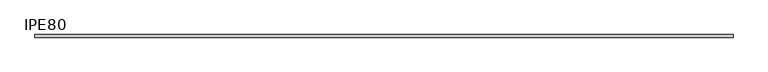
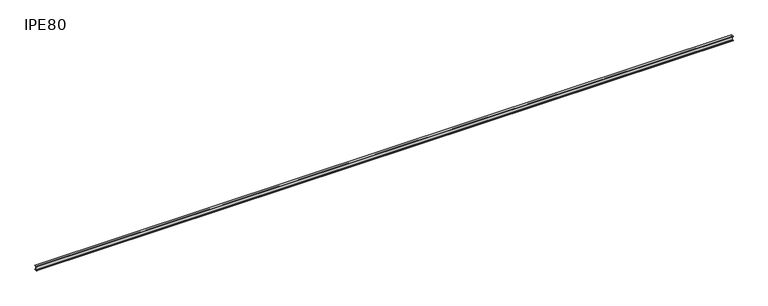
"""IFC4 building model written with IfcOpenShell, lengths in millimetres: beam geometry, IPE-Poutrelles : IPE80."""

from ifc_helpers import new_model, si_unit, point, frame, frame_2d, origin, place, context, project, spatial, polyline, circle_curve, trimmed, segment, composite_curve, outline, extrude, source, transform, mapped, element, save


def ipe80_2506bd97(model_context):
    return source(origin(), model_context, "Body", "SweptSolid", [
        extrude(outline(composite_curve([segment(polyline([(23.0, -34.8), (23.0, -40.0), (-23.0, -40.0), (-23.0, -34.8), (-6.9, -34.8)]), True, "CONTINUOUS"), segment(trimmed(circle_curve(frame_2d((-6.9, -29.8)), 5.0), [point((-6.9, -34.8))], [point((-1.9, -29.8))], True, "CARTESIAN"), True, "CONTINUOUS"), segment(polyline([(-1.9, -29.8), (-1.9, 29.8)]), True, "CONTINUOUS"), segment(trimmed(circle_curve(frame_2d((-6.9, 29.8)), 5.0), [point((-1.9, 29.8))], [point((-6.9, 34.8))], True, "CARTESIAN"), True, "CONTINUOUS"), segment(polyline([(-6.9, 34.8), (-23.0, 34.8), (-23.0, 40.0), (23.0, 40.0), (23.0, 34.8), (6.9, 34.8)]), True, "CONTINUOUS"), segment(trimmed(circle_curve(frame_2d((6.9, 29.8)), 5.0), [point((6.9, 34.8))], [point((1.9, 29.8))], True, "CARTESIAN"), True, "CONTINUOUS"), segment(polyline([(1.9, 29.8), (1.9, -29.8)]), True, "CONTINUOUS"), segment(trimmed(circle_curve(frame_2d((6.9, -29.8)), 5.0), [point((1.9, -29.8))], [point((6.9, -34.8))], True, "CARTESIAN"), True, "CONTINUOUS"), segment(polyline([(6.9, -34.8), (23.0, -34.8)]), True, "CONTINUOUS")], self_intersect=False)), frame((-6073.0, 0.0, 0.0), z_axis=(1.0, 0.0, 0.0), x_axis=(0.0, 1.0, 0.0)), (0.0, 0.0, 1.0), 12146.0),
    ])


if __name__ == "__main__":
    model = new_model("IFC4")
    model_context = context("Model", 3, world=origin())
    ifc_project = project(units=[si_unit("LENGTHUNIT", "METRE", prefix="MILLI")], contexts=[model_context])
    site = spatial("IfcSite", under=ifc_project)
    building = spatial("IfcBuilding", under=site)
    placement = place(None, origin())
    ipe80_shape = ipe80_2506bd97(model_context)
    element("IfcBeam", 1, ObjectType="IPE-Poutrelles : IPE80", at=placement, inside=building, context=model_context, shape_type="MappedRepresentation", body=[
        mapped(ipe80_shape, transform((0.0, 0.0, 0.0), x_axis=(1.0, 0.0, 0.0), y_axis=(0.0, 1.0, 0.0), z_axis=(0.0, 0.0, 1.0))),
    ])
    save(model, "model.ifc")
